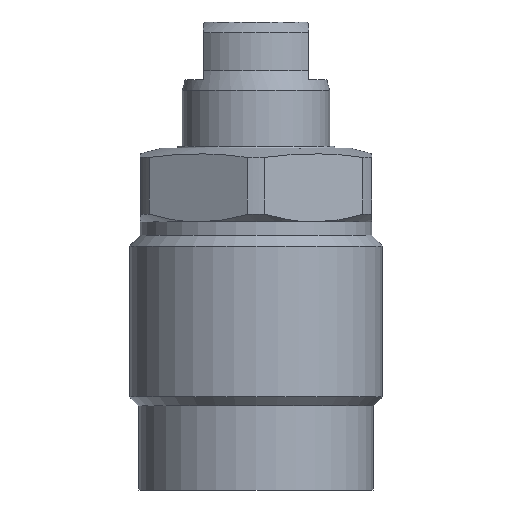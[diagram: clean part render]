
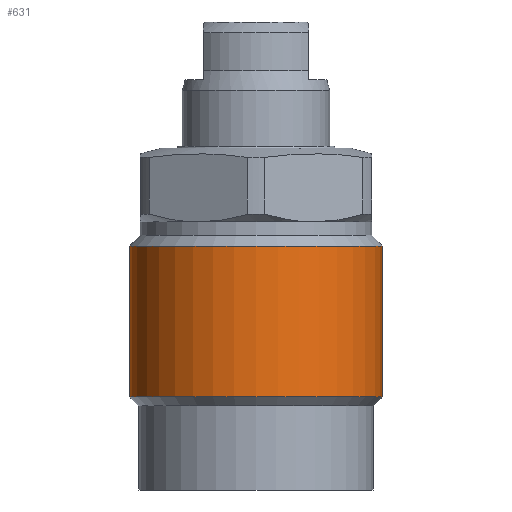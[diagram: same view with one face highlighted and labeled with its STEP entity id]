
A CAD part, front view. The second image highlights one B-rep face of the part: STEP entity #631.
In plain terms, the highlighted cylindrical face has radius 12 mm (diameter 24 mm), a partial arc.
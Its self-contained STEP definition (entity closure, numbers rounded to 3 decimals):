
#3 = LINE ( 'NONE', #7, #1200 ) ;
#7 = CARTESIAN_POINT ( 'NONE',  ( -12., 0., 4.2 ) ) ;
#8 = DIRECTION ( 'NONE',  ( 0., 0., 1. ) ) ;
#9 = LINE ( 'NONE', #10, #1206 ) ;
#10 = CARTESIAN_POINT ( 'NONE',  ( 12., 0., 4.2 ) ) ;
#11 = DIRECTION ( 'NONE',  ( 0., 0., 1. ) ) ;
#136 = CARTESIAN_POINT ( 'NONE',  ( 12., 0., -9.3 ) ) ;
#144 = CARTESIAN_POINT ( 'NONE',  ( 12., 0., -23.65 ) ) ;
#145 = CARTESIAN_POINT ( 'NONE',  ( -12., 0., -23.65 ) ) ;
#150 = CARTESIAN_POINT ( 'NONE',  ( -12., 0., -9.3 ) ) ;
#377 = CIRCLE ( 'NONE', #382, 12. ) ;
#379 = CIRCLE ( 'NONE', #384, 12. ) ;
#382 = AXIS2_PLACEMENT_3D ( 'NONE', #1749, #1750, #1751 ) ;
#384 = AXIS2_PLACEMENT_3D ( 'NONE', #1752, #1753, #1754 ) ;
#508 = EDGE_CURVE ( 'NONE', #2358, #2357, #377, .T. ) ;
#509 = EDGE_CURVE ( 'NONE', #2363, #2349, #379, .T. ) ;
#631 = ADVANCED_FACE ( 'NONE', ( #775 ), #777, .T. ) ;
#765 = DIRECTION ( 'NONE',  ( 0., 0., 1. ) ) ;
#775 = FACE_OUTER_BOUND ( 'NONE', #2258, .T. ) ;
#776 = CARTESIAN_POINT ( 'NONE',  ( 0., 0., 4.2 ) ) ;
#777 = CYLINDRICAL_SURFACE ( 'NONE', #1032, 12. ) ;
#778 = DIRECTION ( 'NONE',  ( 1., 0., 0. ) ) ;
#1032 = AXIS2_PLACEMENT_3D ( 'NONE', #776, #765, #778 ) ;
#1200 = VECTOR ( 'NONE', #8, 1000. ) ;
#1206 = VECTOR ( 'NONE', #11, 1000. ) ;
#1342 = EDGE_CURVE ( 'NONE', #2358, #2363, #3, .T. ) ;
#1343 = EDGE_CURVE ( 'NONE', #2357, #2349, #9, .T. ) ;
#1749 = CARTESIAN_POINT ( 'NONE',  ( 0., 0., -23.65 ) ) ;
#1750 = DIRECTION ( 'NONE',  ( 0., 0., 1. ) ) ;
#1751 = DIRECTION ( 'NONE',  ( 1., 0., 0. ) ) ;
#1752 = CARTESIAN_POINT ( 'NONE',  ( 0., 0., -9.3 ) ) ;
#1753 = DIRECTION ( 'NONE',  ( 0., 0., 1. ) ) ;
#1754 = DIRECTION ( 'NONE',  ( 1., 0., 0. ) ) ;
#2258 = EDGE_LOOP ( 'NONE', ( #2664, #2631, #2601, #2595 ) ) ;
#2349 = VERTEX_POINT ( 'NONE', #136 ) ;
#2357 = VERTEX_POINT ( 'NONE', #144 ) ;
#2358 = VERTEX_POINT ( 'NONE', #145 ) ;
#2363 = VERTEX_POINT ( 'NONE', #150 ) ;
#2595 = ORIENTED_EDGE ( 'NONE', *, *, #509, .F. ) ;
#2601 = ORIENTED_EDGE ( 'NONE', *, *, #1343, .T. ) ;
#2631 = ORIENTED_EDGE ( 'NONE', *, *, #508, .T. ) ;
#2664 = ORIENTED_EDGE ( 'NONE', *, *, #1342, .F. ) ;
